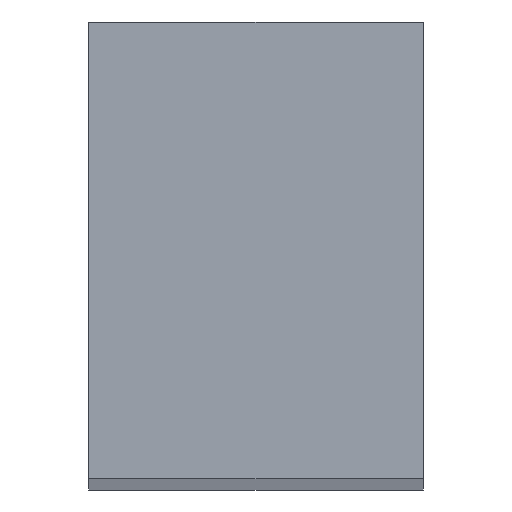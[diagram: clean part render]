
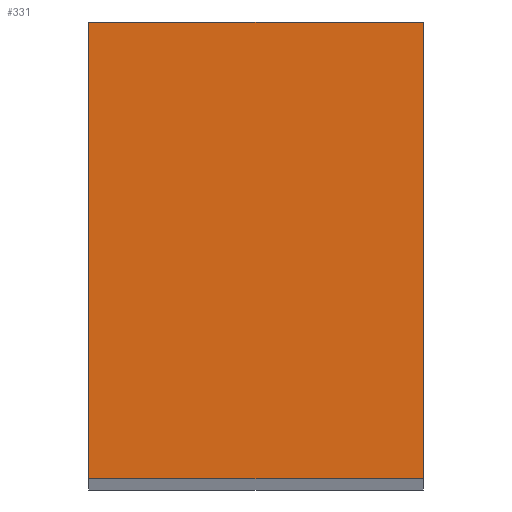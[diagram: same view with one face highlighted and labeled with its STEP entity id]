
A CAD part, top view. The second image highlights one B-rep face of the part: STEP entity #331.
In plain terms, the highlighted planar face has unit normal (0, 0, 1).
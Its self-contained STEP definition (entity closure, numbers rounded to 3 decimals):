
#22 = VERTEX_POINT('',#23);
#23 = CARTESIAN_POINT('',(147.,-15.,-30.));
#32 = PLANE('',#33);
#33 = AXIS2_PLACEMENT_3D('',#34,#35,#36);
#34 = CARTESIAN_POINT('',(147.,-15.,-30.));
#35 = DIRECTION('',(-1.,0.,0.));
#36 = DIRECTION('',(0.,0.,-1.));
#44 = PLANE('',#45);
#45 = AXIS2_PLACEMENT_3D('',#46,#47,#48);
#46 = CARTESIAN_POINT('',(147.,-15.,-30.));
#47 = DIRECTION('',(0.,1.,0.));
#48 = DIRECTION('',(0.,0.,-1.));
#56 = EDGE_CURVE('',#22,#57,#59,.T.);
#57 = VERTEX_POINT('',#58);
#58 = CARTESIAN_POINT('',(147.,15.,-30.));
#59 = SURFACE_CURVE('',#60,(#64,#71),.PCURVE_S1.);
#60 = LINE('',#61,#62);
#61 = CARTESIAN_POINT('',(147.,-15.,-30.));
#62 = VECTOR('',#63,1.);
#63 = DIRECTION('',(0.,1.,0.));
#64 = PCURVE('',#32,#65);
#65 = DEFINITIONAL_REPRESENTATION('',(#66),#70);
#66 = LINE('',#67,#68);
#67 = CARTESIAN_POINT('',(0.,0.));
#68 = VECTOR('',#69,1.);
#69 = DIRECTION('',(0.,-1.));
#70 = ( GEOMETRIC_REPRESENTATION_CONTEXT(2) 
PARAMETRIC_REPRESENTATION_CONTEXT() REPRESENTATION_CONTEXT('2D SPACE',''
  ) );
#71 = PCURVE('',#72,#77);
#72 = PLANE('',#73);
#73 = AXIS2_PLACEMENT_3D('',#74,#75,#76);
#74 = CARTESIAN_POINT('',(147.,-15.,-30.));
#75 = DIRECTION('',(0.,0.,-1.));
#76 = DIRECTION('',(-1.,0.,0.));
#77 = DEFINITIONAL_REPRESENTATION('',(#78),#82);
#78 = LINE('',#79,#80);
#79 = CARTESIAN_POINT('',(0.,0.));
#80 = VECTOR('',#81,1.);
#81 = DIRECTION('',(0.,1.));
#82 = ( GEOMETRIC_REPRESENTATION_CONTEXT(2) 
PARAMETRIC_REPRESENTATION_CONTEXT() REPRESENTATION_CONTEXT('2D SPACE',''
  ) );
#100 = PLANE('',#101);
#101 = AXIS2_PLACEMENT_3D('',#102,#103,#104);
#102 = CARTESIAN_POINT('',(147.,15.,-30.));
#103 = DIRECTION('',(0.,1.,0.));
#104 = DIRECTION('',(0.,0.,-1.));
#142 = VERTEX_POINT('',#143);
#143 = CARTESIAN_POINT('',(125.,-15.,-30.));
#152 = PLANE('',#153);
#153 = AXIS2_PLACEMENT_3D('',#154,#155,#156);
#154 = CARTESIAN_POINT('',(125.,-15.,-30.));
#155 = DIRECTION('',(-1.,0.,0.));
#156 = DIRECTION('',(0.,0.,-1.));
#171 = EDGE_CURVE('',#142,#172,#174,.T.);
#172 = VERTEX_POINT('',#173);
#173 = CARTESIAN_POINT('',(125.,15.,-30.));
#174 = SURFACE_CURVE('',#175,(#179,#186),.PCURVE_S1.);
#175 = LINE('',#176,#177);
#176 = CARTESIAN_POINT('',(125.,-15.,-30.));
#177 = VECTOR('',#178,1.);
#178 = DIRECTION('',(0.,1.,0.));
#179 = PCURVE('',#152,#180);
#180 = DEFINITIONAL_REPRESENTATION('',(#181),#185);
#181 = LINE('',#182,#183);
#182 = CARTESIAN_POINT('',(0.,0.));
#183 = VECTOR('',#184,1.);
#184 = DIRECTION('',(0.,-1.));
#185 = ( GEOMETRIC_REPRESENTATION_CONTEXT(2) 
PARAMETRIC_REPRESENTATION_CONTEXT() REPRESENTATION_CONTEXT('2D SPACE',''
  ) );
#186 = PCURVE('',#72,#187);
#187 = DEFINITIONAL_REPRESENTATION('',(#188),#192);
#188 = LINE('',#189,#190);
#189 = CARTESIAN_POINT('',(22.,0.));
#190 = VECTOR('',#191,1.);
#191 = DIRECTION('',(0.,1.));
#192 = ( GEOMETRIC_REPRESENTATION_CONTEXT(2) 
PARAMETRIC_REPRESENTATION_CONTEXT() REPRESENTATION_CONTEXT('2D SPACE',''
  ) );
#241 = EDGE_CURVE('',#22,#142,#242,.T.);
#242 = SURFACE_CURVE('',#243,(#247,#254),.PCURVE_S1.);
#243 = LINE('',#244,#245);
#244 = CARTESIAN_POINT('',(147.,-15.,-30.));
#245 = VECTOR('',#246,1.);
#246 = DIRECTION('',(-1.,0.,0.));
#247 = PCURVE('',#44,#248);
#248 = DEFINITIONAL_REPRESENTATION('',(#249),#253);
#249 = LINE('',#250,#251);
#250 = CARTESIAN_POINT('',(0.,0.));
#251 = VECTOR('',#252,1.);
#252 = DIRECTION('',(0.,1.));
#253 = ( GEOMETRIC_REPRESENTATION_CONTEXT(2) 
PARAMETRIC_REPRESENTATION_CONTEXT() REPRESENTATION_CONTEXT('2D SPACE',''
  ) );
#254 = PCURVE('',#72,#255);
#255 = DEFINITIONAL_REPRESENTATION('',(#256),#260);
#256 = LINE('',#257,#258);
#257 = CARTESIAN_POINT('',(0.,0.));
#258 = VECTOR('',#259,1.);
#259 = DIRECTION('',(1.,0.));
#260 = ( GEOMETRIC_REPRESENTATION_CONTEXT(2) 
PARAMETRIC_REPRESENTATION_CONTEXT() REPRESENTATION_CONTEXT('2D SPACE',''
  ) );
#288 = EDGE_CURVE('',#57,#172,#289,.T.);
#289 = SURFACE_CURVE('',#290,(#294,#301),.PCURVE_S1.);
#290 = LINE('',#291,#292);
#291 = CARTESIAN_POINT('',(147.,15.,-30.));
#292 = VECTOR('',#293,1.);
#293 = DIRECTION('',(-1.,0.,0.));
#294 = PCURVE('',#100,#295);
#295 = DEFINITIONAL_REPRESENTATION('',(#296),#300);
#296 = LINE('',#297,#298);
#297 = CARTESIAN_POINT('',(0.,0.));
#298 = VECTOR('',#299,1.);
#299 = DIRECTION('',(0.,1.));
#300 = ( GEOMETRIC_REPRESENTATION_CONTEXT(2) 
PARAMETRIC_REPRESENTATION_CONTEXT() REPRESENTATION_CONTEXT('2D SPACE',''
  ) );
#301 = PCURVE('',#72,#302);
#302 = DEFINITIONAL_REPRESENTATION('',(#303),#307);
#303 = LINE('',#304,#305);
#304 = CARTESIAN_POINT('',(0.,30.));
#305 = VECTOR('',#306,1.);
#306 = DIRECTION('',(1.,0.));
#307 = ( GEOMETRIC_REPRESENTATION_CONTEXT(2) 
PARAMETRIC_REPRESENTATION_CONTEXT() REPRESENTATION_CONTEXT('2D SPACE',''
  ) );
#331 = ADVANCED_FACE('',(#332),#72,.F.);
#332 = FACE_BOUND('',#333,.F.);
#333 = EDGE_LOOP('',(#334,#335,#336,#337));
#334 = ORIENTED_EDGE('',*,*,#56,.F.);
#335 = ORIENTED_EDGE('',*,*,#241,.T.);
#336 = ORIENTED_EDGE('',*,*,#171,.T.);
#337 = ORIENTED_EDGE('',*,*,#288,.F.);
